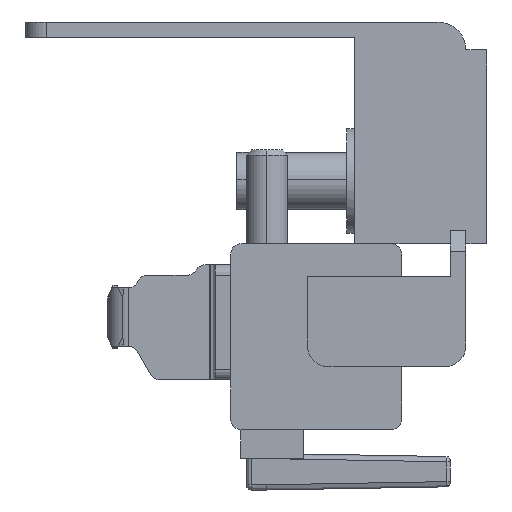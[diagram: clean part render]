
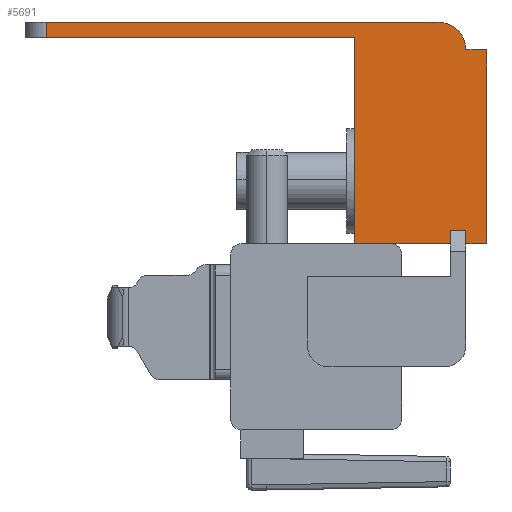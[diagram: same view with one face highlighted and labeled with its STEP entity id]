
A CAD part, left-side view. The second image highlights one B-rep face of the part: STEP entity #5691.
In plain terms, the highlighted planar face has unit normal (-1, 0, 0).
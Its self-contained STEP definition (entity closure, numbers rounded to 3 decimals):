
#68 = LINE ( 'NONE', #432, #221 ) ;
#148 = CARTESIAN_POINT ( 'NONE',  ( -381., -17.713, -1.651 ) ) ;
#221 = VECTOR ( 'NONE', #2605, 1000. ) ;
#288 = DIRECTION ( 'NONE',  ( 0., 1., 0. ) ) ;
#333 = LINE ( 'NONE', #860, #1449 ) ;
#392 = DIRECTION ( 'NONE',  ( 0., 0., -1. ) ) ;
#397 = EDGE_CURVE ( 'NONE', #1061, #1663, #68, .T. ) ;
#432 = CARTESIAN_POINT ( 'NONE',  ( -381., -29.063, 18.079 ) ) ;
#444 = DIRECTION ( 'NONE',  ( 0., 1., 0. ) ) ;
#447 = EDGE_LOOP ( 'NONE', ( #1095, #2915, #3043, #2287, #5953, #5074, #4875, #3644, #3413, #5715, #5855, #2837 ) ) ;
#609 = DIRECTION ( 'NONE',  ( 0., 1., 0. ) ) ;
#642 = VECTOR ( 'NONE', #2252, 1000. ) ;
#860 = CARTESIAN_POINT ( 'NONE',  ( -381., 11.767, 17.779 ) ) ;
#903 = VERTEX_POINT ( 'NONE', #3110 ) ;
#1061 = VERTEX_POINT ( 'NONE', #5990 ) ;
#1094 = DIRECTION ( 'NONE',  ( 0., -1., 0. ) ) ;
#1095 = ORIENTED_EDGE ( 'NONE', *, *, #4896, .F. ) ;
#1153 = VERTEX_POINT ( 'NONE', #148 ) ;
#1173 = VECTOR ( 'NONE', #1361, 1000. ) ;
#1209 = EDGE_CURVE ( 'NONE', #2384, #5675, #1914, .T. ) ;
#1229 = VERTEX_POINT ( 'NONE', #4400 ) ;
#1296 = CARTESIAN_POINT ( 'NONE',  ( -381., -30.333, 16.879 ) ) ;
#1311 = LINE ( 'NONE', #2902, #1173 ) ;
#1333 = DIRECTION ( 'NONE',  ( 0., 0., 1. ) ) ;
#1347 = EDGE_CURVE ( 'NONE', #3805, #903, #1311, .T. ) ;
#1361 = DIRECTION ( 'NONE',  ( 0., 0., -1. ) ) ;
#1416 = DIRECTION ( 'NONE',  ( 0., 0., -1. ) ) ;
#1449 = VECTOR ( 'NONE', #392, 1000. ) ;
#1663 = VERTEX_POINT ( 'NONE', #2195 ) ;
#1914 = LINE ( 'NONE', #2545, #3003 ) ;
#1922 = EDGE_CURVE ( 'NONE', #5632, #4828, #5382, .T. ) ;
#2003 = VECTOR ( 'NONE', #1416, 1000. ) ;
#2044 = EDGE_CURVE ( 'NONE', #5675, #2573, #3599, .T. ) ;
#2195 = CARTESIAN_POINT ( 'NONE',  ( -381., 11.767, 18.079 ) ) ;
#2237 = VECTOR ( 'NONE', #2370, 1000. ) ;
#2252 = DIRECTION ( 'NONE',  ( 0., 0., 1. ) ) ;
#2287 = ORIENTED_EDGE ( 'NONE', *, *, #5539, .F. ) ;
#2292 = CARTESIAN_POINT ( 'NONE',  ( -381., -28.333, 16.879 ) ) ;
#2311 = AXIS2_PLACEMENT_3D ( 'NONE', #3860, #3371, #4217 ) ;
#2370 = DIRECTION ( 'NONE',  ( 0., -1., 0. ) ) ;
#2384 = VERTEX_POINT ( 'NONE', #1296 ) ;
#2474 = EDGE_CURVE ( 'NONE', #1153, #903, #5909, .T. ) ;
#2545 = CARTESIAN_POINT ( 'NONE',  ( -381., -30.333, 16.879 ) ) ;
#2573 = VERTEX_POINT ( 'NONE', #4252 ) ;
#2605 = DIRECTION ( 'NONE',  ( 0., 1., 0. ) ) ;
#2686 = LINE ( 'NONE', #3696, #5024 ) ;
#2717 = CARTESIAN_POINT ( 'NONE',  ( -381., -30.333, -1.651 ) ) ;
#2780 = CARTESIAN_POINT ( 'NONE',  ( -381., -29.063, 15.779 ) ) ;
#2837 = ORIENTED_EDGE ( 'NONE', *, *, #397, .F. ) ;
#2902 = CARTESIAN_POINT ( 'NONE',  ( -381., -26.863, -1.651 ) ) ;
#2915 = ORIENTED_EDGE ( 'NONE', *, *, #2474, .T. ) ;
#3003 = VECTOR ( 'NONE', #4458, 1000. ) ;
#3043 = ORIENTED_EDGE ( 'NONE', *, *, #1347, .F. ) ;
#3098 = CARTESIAN_POINT ( 'NONE',  ( -381., -28.333, -1.651 ) ) ;
#3109 = CARTESIAN_POINT ( 'NONE',  ( -381., -26.863, -0.361 ) ) ;
#3110 = CARTESIAN_POINT ( 'NONE',  ( -381., -26.863, -1.651 ) ) ;
#3257 = DIRECTION ( 'NONE',  ( 1., 0., 0. ) ) ;
#3307 = FACE_OUTER_BOUND ( 'NONE', #447, .T. ) ;
#3343 = EDGE_CURVE ( 'NONE', #2384, #5632, #4480, .T. ) ;
#3371 = DIRECTION ( 'NONE',  ( -1., 0., 0. ) ) ;
#3413 = ORIENTED_EDGE ( 'NONE', *, *, #2044, .T. ) ;
#3483 = AXIS2_PLACEMENT_3D ( 'NONE', #2780, #3257, #444 ) ;
#3599 = CIRCLE ( 'NONE', #2311, 2.67 ) ;
#3644 = ORIENTED_EDGE ( 'NONE', *, *, #1209, .T. ) ;
#3696 = CARTESIAN_POINT ( 'NONE',  ( -381., -28.333, -1.651 ) ) ;
#3805 = VERTEX_POINT ( 'NONE', #5151 ) ;
#3860 = CARTESIAN_POINT ( 'NONE',  ( -381., -25.663, 16.879 ) ) ;
#4168 = VECTOR ( 'NONE', #609, 1000. ) ;
#4217 = DIRECTION ( 'NONE',  ( 0., 0., -1. ) ) ;
#4222 = CARTESIAN_POINT ( 'NONE',  ( -381., -30.333, 16.879 ) ) ;
#4252 = CARTESIAN_POINT ( 'NONE',  ( -381., -25.663, 19.549 ) ) ;
#4314 = VECTOR ( 'NONE', #1094, 1000. ) ;
#4319 = LINE ( 'NONE', #3109, #4460 ) ;
#4372 = CARTESIAN_POINT ( 'NONE',  ( -381., 14.667, 19.549 ) ) ;
#4400 = CARTESIAN_POINT ( 'NONE',  ( -381., 11.767, 19.549 ) ) ;
#4458 = DIRECTION ( 'NONE',  ( 0., 1., 0. ) ) ;
#4460 = VECTOR ( 'NONE', #288, 1000. ) ;
#4480 = LINE ( 'NONE', #4222, #2003 ) ;
#4793 = CARTESIAN_POINT ( 'NONE',  ( -381., -17.713, -1.651 ) ) ;
#4828 = VERTEX_POINT ( 'NONE', #3098 ) ;
#4875 = ORIENTED_EDGE ( 'NONE', *, *, #3343, .F. ) ;
#4896 = EDGE_CURVE ( 'NONE', #1153, #1061, #5434, .T. ) ;
#4963 = EDGE_CURVE ( 'NONE', #1229, #1663, #333, .T. ) ;
#4971 = EDGE_CURVE ( 'NONE', #4828, #5560, #2686, .T. ) ;
#5024 = VECTOR ( 'NONE', #1333, 1000. ) ;
#5074 = ORIENTED_EDGE ( 'NONE', *, *, #1922, .F. ) ;
#5151 = CARTESIAN_POINT ( 'NONE',  ( -381., -26.863, -0.361 ) ) ;
#5382 = LINE ( 'NONE', #6031, #4168 ) ;
#5434 = LINE ( 'NONE', #5913, #642 ) ;
#5539 = EDGE_CURVE ( 'NONE', #5560, #3805, #4319, .T. ) ;
#5541 = PLANE ( 'NONE',  #3483 ) ;
#5560 = VERTEX_POINT ( 'NONE', #5864 ) ;
#5632 = VERTEX_POINT ( 'NONE', #2717 ) ;
#5669 = LINE ( 'NONE', #4372, #4314 ) ;
#5675 = VERTEX_POINT ( 'NONE', #2292 ) ;
#5691 = ADVANCED_FACE ( 'NONE', ( #3307 ), #5541, .F. ) ;
#5715 = ORIENTED_EDGE ( 'NONE', *, *, #5962, .F. ) ;
#5855 = ORIENTED_EDGE ( 'NONE', *, *, #4963, .T. ) ;
#5864 = CARTESIAN_POINT ( 'NONE',  ( -381., -28.333, -0.361 ) ) ;
#5909 = LINE ( 'NONE', #4793, #2237 ) ;
#5913 = CARTESIAN_POINT ( 'NONE',  ( -381., -17.713, -1.651 ) ) ;
#5953 = ORIENTED_EDGE ( 'NONE', *, *, #4971, .F. ) ;
#5962 = EDGE_CURVE ( 'NONE', #1229, #2573, #5669, .T. ) ;
#5990 = CARTESIAN_POINT ( 'NONE',  ( -381., -17.713, 18.079 ) ) ;
#6031 = CARTESIAN_POINT ( 'NONE',  ( -381., -30.333, -1.651 ) ) ;
